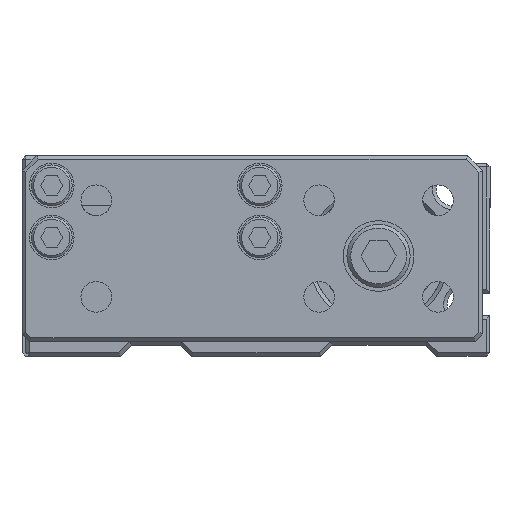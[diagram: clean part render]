
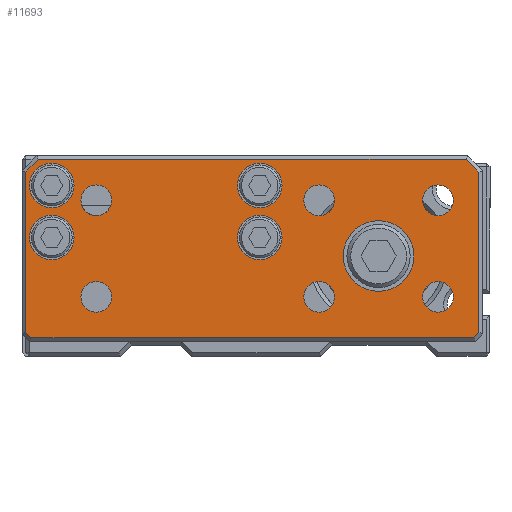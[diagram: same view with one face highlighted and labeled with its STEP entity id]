
A CAD part, front view. The second image highlights one B-rep face of the part: STEP entity #11693.
In plain terms, the highlighted planar face has unit normal (0, -1, 0).
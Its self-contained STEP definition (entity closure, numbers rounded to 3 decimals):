
#10795=CARTESIAN_POINT('',(4.75,-11.8,0.0));
#10796=VERTEX_POINT('',#10795);
#10797=CARTESIAN_POINT('',(0.,-11.8,0.0));
#10798=DIRECTION('',(0.0,1.0,0.0));
#10799=DIRECTION('',(1.0,0.0,0.0));
#10800=AXIS2_PLACEMENT_3D('',#10797,#10798,#10799);
#10801=CIRCLE('',#10800,4.75);
#10802=EDGE_CURVE('',#10796,#10796,#10801,.T.);
#10856=CARTESIAN_POINT('',(-41.0,-11.8,9.5));
#10857=VERTEX_POINT('',#10856);
#10858=CARTESIAN_POINT('',(-44.,-11.8,9.5));
#10859=DIRECTION('',(0.0,1.0,0.0));
#10860=DIRECTION('',(1.0,0.0,0.0));
#10861=AXIS2_PLACEMENT_3D('',#10858,#10859,#10860);
#10862=CIRCLE('',#10861,3.);
#10863=EDGE_CURVE('',#10857,#10857,#10862,.T.);
#10925=CARTESIAN_POINT('',(-41.0,-11.8,2.5));
#10926=VERTEX_POINT('',#10925);
#10927=CARTESIAN_POINT('',(-44.,-11.8,2.5));
#10928=DIRECTION('',(0.0,1.0,0.0));
#10929=DIRECTION('',(1.0,0.0,0.0));
#10930=AXIS2_PLACEMENT_3D('',#10927,#10928,#10929);
#10931=CIRCLE('',#10930,3.);
#10932=EDGE_CURVE('',#10926,#10926,#10931,.T.);
#10994=CARTESIAN_POINT('',(-13.,-11.8,2.5));
#10995=VERTEX_POINT('',#10994);
#10996=CARTESIAN_POINT('',(-16.,-11.8,2.5));
#10997=DIRECTION('',(0.0,1.0,0.0));
#10998=DIRECTION('',(1.0,0.0,0.0));
#10999=AXIS2_PLACEMENT_3D('',#10996,#10997,#10998);
#11000=CIRCLE('',#10999,3.);
#11001=EDGE_CURVE('',#10995,#10995,#11000,.T.);
#11063=CARTESIAN_POINT('',(-13.,-11.8,9.5));
#11064=VERTEX_POINT('',#11063);
#11065=CARTESIAN_POINT('',(-16.,-11.8,9.5));
#11066=DIRECTION('',(0.0,1.0,0.0));
#11067=DIRECTION('',(1.0,0.0,0.0));
#11068=AXIS2_PLACEMENT_3D('',#11065,#11066,#11067);
#11069=CIRCLE('',#11068,3.);
#11070=EDGE_CURVE('',#11064,#11064,#11069,.T.);
#11132=CARTESIAN_POINT('',(10.067,-11.8,7.5));
#11133=VERTEX_POINT('',#11132);
#11134=CARTESIAN_POINT('',(8.,-11.8,7.5));
#11135=DIRECTION('',(0.0,1.0,0.0));
#11136=DIRECTION('',(1.0,0.0,0.0));
#11137=AXIS2_PLACEMENT_3D('',#11134,#11135,#11136);
#11138=CIRCLE('',#11137,2.067);
#11139=EDGE_CURVE('',#11133,#11133,#11138,.T.);
#11181=CARTESIAN_POINT('',(10.067,-11.8,-5.5));
#11182=VERTEX_POINT('',#11181);
#11183=CARTESIAN_POINT('',(8.,-11.8,-5.5));
#11184=DIRECTION('',(0.0,1.0,0.0));
#11185=DIRECTION('',(1.0,0.0,0.0));
#11186=AXIS2_PLACEMENT_3D('',#11183,#11184,#11185);
#11187=CIRCLE('',#11186,2.067);
#11188=EDGE_CURVE('',#11182,#11182,#11187,.T.);
#11230=CARTESIAN_POINT('',(-5.933,-11.8,-5.5));
#11231=VERTEX_POINT('',#11230);
#11232=CARTESIAN_POINT('',(-8.,-11.8,-5.5));
#11233=DIRECTION('',(0.0,1.0,0.0));
#11234=DIRECTION('',(1.0,0.0,0.0));
#11235=AXIS2_PLACEMENT_3D('',#11232,#11233,#11234);
#11236=CIRCLE('',#11235,2.067);
#11237=EDGE_CURVE('',#11231,#11231,#11236,.T.);
#11279=CARTESIAN_POINT('',(-5.933,-11.8,7.5));
#11280=VERTEX_POINT('',#11279);
#11281=CARTESIAN_POINT('',(-8.,-11.8,7.5));
#11282=DIRECTION('',(0.0,1.0,0.0));
#11283=DIRECTION('',(1.0,0.0,0.0));
#11284=AXIS2_PLACEMENT_3D('',#11281,#11282,#11283);
#11285=CIRCLE('',#11284,2.067);
#11286=EDGE_CURVE('',#11280,#11280,#11285,.T.);
#11328=CARTESIAN_POINT('',(-35.933,-11.8,7.5));
#11329=VERTEX_POINT('',#11328);
#11330=CARTESIAN_POINT('',(-38.,-11.8,7.5));
#11331=DIRECTION('',(0.0,1.0,0.0));
#11332=DIRECTION('',(1.0,0.0,0.0));
#11333=AXIS2_PLACEMENT_3D('',#11330,#11331,#11332);
#11334=CIRCLE('',#11333,2.067);
#11335=EDGE_CURVE('',#11329,#11329,#11334,.T.);
#11386=CARTESIAN_POINT('',(-35.933,-11.8,-5.5));
#11387=VERTEX_POINT('',#11386);
#11388=CARTESIAN_POINT('',(-38.,-11.8,-5.5));
#11389=DIRECTION('',(0.0,1.0,0.0));
#11390=DIRECTION('',(1.0,0.0,0.0));
#11391=AXIS2_PLACEMENT_3D('',#11388,#11389,#11390);
#11392=CIRCLE('',#11391,2.067);
#11393=EDGE_CURVE('',#11387,#11387,#11392,.T.);
#11589=CARTESIAN_POINT('',(-48.0,-11.8,13.5));
#11590=DIRECTION('',(0.0,-1.0,0.0));
#11591=DIRECTION('',(0.0,0.0,-1.0));
#11592=AXIS2_PLACEMENT_3D('',#11589,#11590,#11591);
#11593=PLANE('',#11592);
#11594=CARTESIAN_POINT('',(13.5,-11.8,11.293));
#11595=VERTEX_POINT('',#11594);
#11596=CARTESIAN_POINT('',(13.5,-11.8,-10.293));
#11597=VERTEX_POINT('',#11596);
#11598=CARTESIAN_POINT('',(13.5,-11.8,11.293));
#11599=DIRECTION('',(0.0,0.0,-1.0));
#11600=VECTOR('',#11599,21.586);
#11601=LINE('',#11598,#11600);
#11602=EDGE_CURVE('',#11595,#11597,#11601,.T.);
#11603=ORIENTED_EDGE('',*,*,#11602,.F.);
#11604=CARTESIAN_POINT('',(11.793,-11.8,13.));
#11605=VERTEX_POINT('',#11604);
#11606=CARTESIAN_POINT('',(11.793,-11.8,13.));
#11607=DIRECTION('',(0.707,0.0,-0.707));
#11608=VECTOR('',#11607,2.414);
#11609=LINE('',#11606,#11608);
#11610=EDGE_CURVE('',#11605,#11595,#11609,.T.);
#11611=ORIENTED_EDGE('',*,*,#11610,.F.);
#11612=CARTESIAN_POINT('',(-45.793,-11.8,13.0));
#11613=VERTEX_POINT('',#11612);
#11614=CARTESIAN_POINT('',(-45.793,-11.8,13.0));
#11615=DIRECTION('',(1.0,0.0,0.0));
#11616=VECTOR('',#11615,57.586);
#11617=LINE('',#11614,#11616);
#11618=EDGE_CURVE('',#11613,#11605,#11617,.T.);
#11619=ORIENTED_EDGE('',*,*,#11618,.F.);
#11620=CARTESIAN_POINT('',(-47.5,-11.8,11.293));
#11621=VERTEX_POINT('',#11620);
#11622=CARTESIAN_POINT('',(-47.5,-11.8,11.293));
#11623=DIRECTION('',(0.707,0.0,0.707));
#11624=VECTOR('',#11623,2.414);
#11625=LINE('',#11622,#11624);
#11626=EDGE_CURVE('',#11621,#11613,#11625,.T.);
#11627=ORIENTED_EDGE('',*,*,#11626,.F.);
#11628=CARTESIAN_POINT('',(-47.5,-11.8,-10.293));
#11629=VERTEX_POINT('',#11628);
#11630=CARTESIAN_POINT('',(-47.5,-11.8,-10.293));
#11631=DIRECTION('',(0.0,0.0,1.0));
#11632=VECTOR('',#11631,21.586);
#11633=LINE('',#11630,#11632);
#11634=EDGE_CURVE('',#11629,#11621,#11633,.T.);
#11635=ORIENTED_EDGE('',*,*,#11634,.F.);
#11636=CARTESIAN_POINT('',(-46.793,-11.8,-11.0));
#11637=VERTEX_POINT('',#11636);
#11638=CARTESIAN_POINT('',(-46.793,-11.8,-11.0));
#11639=DIRECTION('',(-0.707,0.0,0.707));
#11640=VECTOR('',#11639,1.);
#11641=LINE('',#11638,#11640);
#11642=EDGE_CURVE('',#11637,#11629,#11641,.T.);
#11643=ORIENTED_EDGE('',*,*,#11642,.F.);
#11644=CARTESIAN_POINT('',(12.793,-11.8,-11.0));
#11645=VERTEX_POINT('',#11644);
#11646=CARTESIAN_POINT('',(12.793,-11.8,-11.0));
#11647=DIRECTION('',(-1.0,0.0,0.0));
#11648=VECTOR('',#11647,59.586);
#11649=LINE('',#11646,#11648);
#11650=EDGE_CURVE('',#11645,#11637,#11649,.T.);
#11651=ORIENTED_EDGE('',*,*,#11650,.F.);
#11652=CARTESIAN_POINT('',(13.5,-11.8,-10.293));
#11653=DIRECTION('',(-0.707,0.0,-0.707));
#11654=VECTOR('',#11653,1.);
#11655=LINE('',#11652,#11654);
#11656=EDGE_CURVE('',#11597,#11645,#11655,.T.);
#11657=ORIENTED_EDGE('',*,*,#11656,.F.);
#11658=EDGE_LOOP('',(#11603,#11611,#11619,#11627,#11635,#11643,#11651,#11657));
#11659=FACE_OUTER_BOUND('',#11658,.T.);
#11660=ORIENTED_EDGE('',*,*,#10802,.T.);
#11661=EDGE_LOOP('',(#11660));
#11662=FACE_BOUND('',#11661,.T.);
#11663=ORIENTED_EDGE('',*,*,#10863,.T.);
#11664=EDGE_LOOP('',(#11663));
#11665=FACE_BOUND('',#11664,.T.);
#11666=ORIENTED_EDGE('',*,*,#10932,.T.);
#11667=EDGE_LOOP('',(#11666));
#11668=FACE_BOUND('',#11667,.T.);
#11669=ORIENTED_EDGE('',*,*,#11001,.T.);
#11670=EDGE_LOOP('',(#11669));
#11671=FACE_BOUND('',#11670,.T.);
#11672=ORIENTED_EDGE('',*,*,#11070,.T.);
#11673=EDGE_LOOP('',(#11672));
#11674=FACE_BOUND('',#11673,.T.);
#11675=ORIENTED_EDGE('',*,*,#11139,.T.);
#11676=EDGE_LOOP('',(#11675));
#11677=FACE_BOUND('',#11676,.T.);
#11678=ORIENTED_EDGE('',*,*,#11188,.T.);
#11679=EDGE_LOOP('',(#11678));
#11680=FACE_BOUND('',#11679,.T.);
#11681=ORIENTED_EDGE('',*,*,#11237,.T.);
#11682=EDGE_LOOP('',(#11681));
#11683=FACE_BOUND('',#11682,.T.);
#11684=ORIENTED_EDGE('',*,*,#11286,.T.);
#11685=EDGE_LOOP('',(#11684));
#11686=FACE_BOUND('',#11685,.T.);
#11687=ORIENTED_EDGE('',*,*,#11335,.T.);
#11688=EDGE_LOOP('',(#11687));
#11689=FACE_BOUND('',#11688,.T.);
#11690=ORIENTED_EDGE('',*,*,#11393,.T.);
#11691=EDGE_LOOP('',(#11690));
#11692=FACE_BOUND('',#11691,.T.);
#11693=ADVANCED_FACE('',(#11659,#11662,#11665,#11668,#11671,#11674,#11677,#11680,#11683,#11686,#11689,#11692),#11593,.T.);
